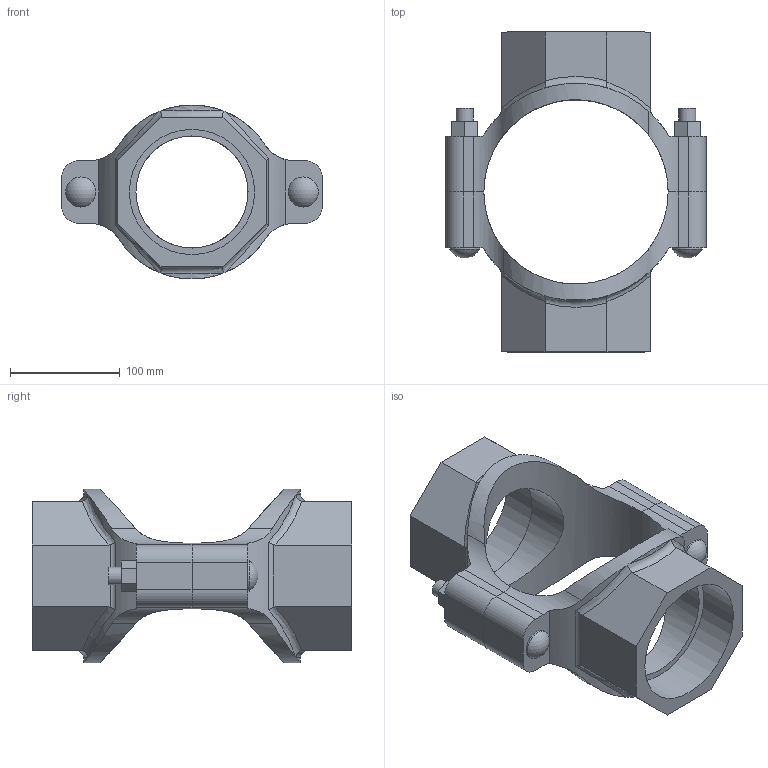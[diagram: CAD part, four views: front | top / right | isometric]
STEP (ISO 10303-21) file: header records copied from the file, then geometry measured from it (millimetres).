
FILE_DESCRIPTION(/* description */ ('VIC MECH-T BRANCH OUTLET CROSS STYLE 920N (THD)','CAx-IF Rec.Pracs.---Representation and Presentation of Product Manufacturing Information (PMI)---4.0---2014-10-13'),/* implementation_level */ '2;1');
FILE_NAME(/* name */ 'C:\Users\Vjadhav\AppData\Roaming\Autodesk\ApplicationPlugins\Back Up\Victaulic_IPS_Mechanical-Cross Outlet_Style 920N (FPT)\Victaulic_IPS_Mechanical-Cross Outlet_06.0x04.0x04.0 (150x100x100).stp',/* time_stamp */ '2020-08-06T18:59:51+05:00',/* author */ ('Vjadhav'),/* organization */ ('Victaulic'),/* preprocessor_version */ 'ST-DEVELOPER v17.2',/* originating_system */ 'Autodesk Inventor 2019',/* authorisation */ '');
FILE_SCHEMA (('AP242_MANAGED_MODEL_BASED_3D_ENGINEERING_MIM_LF { 1 0 10303 442 1 1 4 }'));
Length unit declared in the file: inch
Products named in the file (3): 920NT-06.0x04.0x04.0; 920T-06.0x04.0; 920T-06.0x04.0_1
Assembly tree (2 placements, depth 2):
  920NT-06.0x04.0x04.0
    920T-06.0x04.0
    920T-06.0x04.0_1
Bounding box: 238.25 x 292.1 x 158.75 mm (x, y, z)
Volume: 1549333 mm3; surface area: 250980.6 mm2
Topology: 2 solids, 2 shells, 134 faces, 362 edges, 244 vertices
Faces by surface type: plane 68, cylinder 52, bspline 8, torus 4, sphere 2
Full cylindrical faces by diameter (mm): 15.875 x4, 27.496 x2, 102.394 x2, 114.3 x2
Entity records: 5460 total; most frequent: CARTESIAN_POINT 1899, ORIENTED_EDGE 724, DIRECTION 640, EDGE_CURVE 362, VERTEX_POINT 244, AXIS2_PLACEMENT_3D 229, LINE 182, VECTOR 182
